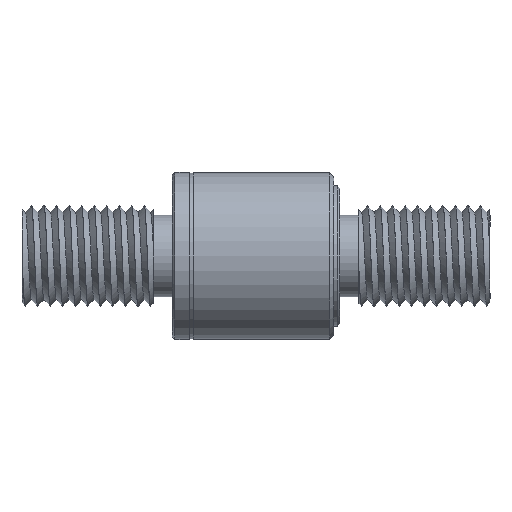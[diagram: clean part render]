
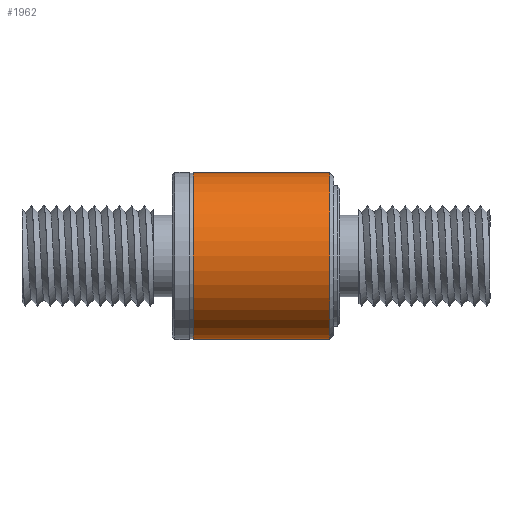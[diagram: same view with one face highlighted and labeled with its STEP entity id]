
A CAD part, left-side view. The second image highlights one B-rep face of the part: STEP entity #1962.
In plain terms, the highlighted cylindrical face has radius 10 mm (diameter 20 mm), a partial arc.
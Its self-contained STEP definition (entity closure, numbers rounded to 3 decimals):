
#102 = ORIENTED_EDGE ( 'NONE', *, *, #6250, .T. ) ;
#318 = VERTEX_POINT ( 'NONE', #2999 ) ;
#550 = AXIS2_PLACEMENT_3D ( 'NONE', #1412, #1838, #2882 ) ;
#810 = CARTESIAN_POINT ( 'NONE',  ( 0., 28., 10. ) ) ;
#897 = LINE ( 'NONE', #1285, #2193 ) ;
#1098 = ORIENTED_EDGE ( 'NONE', *, *, #1885, .F. ) ;
#1285 = CARTESIAN_POINT ( 'NONE',  ( 0., 28., -10. ) ) ;
#1384 = FACE_OUTER_BOUND ( 'NONE', #2380, .T. ) ;
#1412 = CARTESIAN_POINT ( 'NONE',  ( 0., 28., 0. ) ) ;
#1454 = CARTESIAN_POINT ( 'NONE',  ( 0., 7.5, -10. ) ) ;
#1505 = ORIENTED_EDGE ( 'NONE', *, *, #1688, .T. ) ;
#1618 = VERTEX_POINT ( 'NONE', #1454 ) ;
#1688 = EDGE_CURVE ( 'NONE', #4052, #318, #5982, .T. ) ;
#1838 = DIRECTION ( 'NONE',  ( 0., 1., 0. ) ) ;
#1885 = EDGE_CURVE ( 'NONE', #4052, #1618, #897, .T. ) ;
#1962 = ADVANCED_FACE ( 'NONE', ( #1384 ), #3709, .T. ) ;
#2007 = DIRECTION ( 'NONE',  ( 0., 0., 1. ) ) ;
#2193 = VECTOR ( 'NONE', #3327, 1000. ) ;
#2196 = DIRECTION ( 'NONE',  ( 0., 1., 0. ) ) ;
#2353 = EDGE_CURVE ( 'NONE', #1618, #4114, #4156, .T. ) ;
#2380 = EDGE_LOOP ( 'NONE', ( #1098, #1505, #102, #5446 ) ) ;
#2482 = CARTESIAN_POINT ( 'NONE',  ( 0., -8.8, 0. ) ) ;
#2882 = DIRECTION ( 'NONE',  ( 0., 0., 1. ) ) ;
#2999 = CARTESIAN_POINT ( 'NONE',  ( 0., -8.8, 10. ) ) ;
#3030 = CARTESIAN_POINT ( 'NONE',  ( 0., 7.5, 0. ) ) ;
#3202 = CARTESIAN_POINT ( 'NONE',  ( 0., 7.5, 10. ) ) ;
#3327 = DIRECTION ( 'NONE',  ( 0., 1., 0. ) ) ;
#3442 = DIRECTION ( 'NONE',  ( 0., 1., 0. ) ) ;
#3709 = CYLINDRICAL_SURFACE ( 'NONE', #550, 10. ) ;
#3741 = LINE ( 'NONE', #810, #5710 ) ;
#3916 = AXIS2_PLACEMENT_3D ( 'NONE', #2482, #4436, #2007 ) ;
#4052 = VERTEX_POINT ( 'NONE', #6131 ) ;
#4114 = VERTEX_POINT ( 'NONE', #3202 ) ;
#4156 = CIRCLE ( 'NONE', #4671, 10. ) ;
#4436 = DIRECTION ( 'NONE',  ( 0., 1., 0. ) ) ;
#4671 = AXIS2_PLACEMENT_3D ( 'NONE', #3030, #3442, #4933 ) ;
#4933 = DIRECTION ( 'NONE',  ( 0., 0., 1. ) ) ;
#5446 = ORIENTED_EDGE ( 'NONE', *, *, #2353, .F. ) ;
#5710 = VECTOR ( 'NONE', #2196, 1000. ) ;
#5982 = CIRCLE ( 'NONE', #3916, 10. ) ;
#6131 = CARTESIAN_POINT ( 'NONE',  ( 0., -8.8, -10. ) ) ;
#6250 = EDGE_CURVE ( 'NONE', #318, #4114, #3741, .T. ) ;
